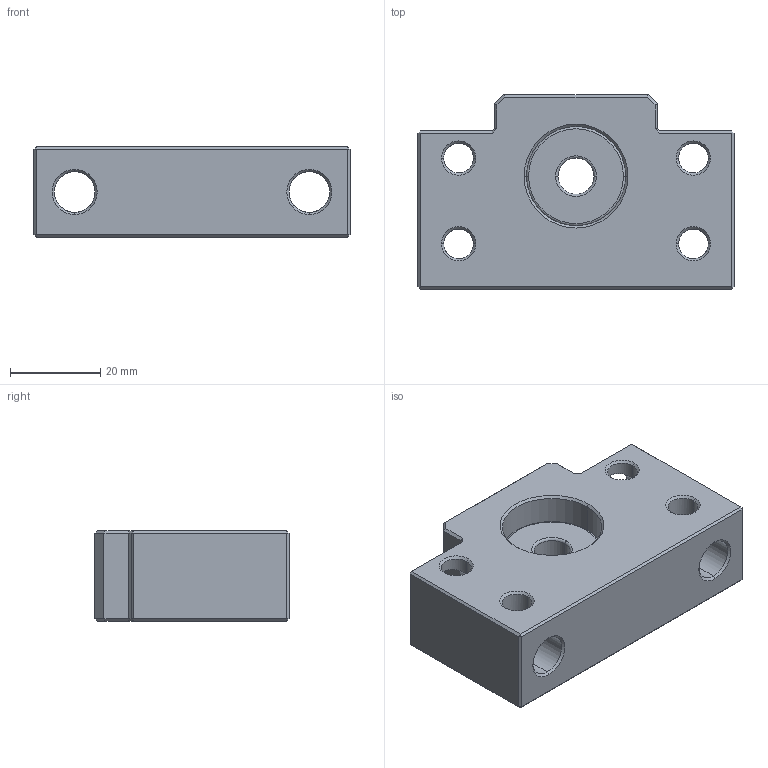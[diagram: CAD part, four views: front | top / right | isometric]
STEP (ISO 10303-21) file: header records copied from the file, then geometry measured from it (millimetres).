
FILE_DESCRIPTION (( 'STEP AP203' ), '1' );
FILE_NAME ('ASGF-10_203.STEP', '2013-02-26T00:35:08', ( '' ), ( '' ), 'SwSTEP 2.0', 'SolidWorks 2012', '' );
FILE_SCHEMA (( 'CONFIG_CONTROL_DESIGN' ));
Length unit declared in the file: millimetre
Products named in the file (1): ASGF-10_203
Bounding box: 70 x 43 x 20 mm (x, y, z)
Volume: 41582.8 mm3; surface area: 13022.6 mm2
Topology: 1 solids, 1 shells, 120 faces, 294 edges, 170 vertices
Faces by surface type: plane 54, cylinder 30, cone 28, torus 8
Entity records: 4045 total; most frequent: CARTESIAN_POINT 1129, DIRECTION 594, ORIENTED_EDGE 588, EDGE_CURVE 294, AXIS2_PLACEMENT_3D 211, LINE 172, VECTOR 172, VERTEX_POINT 170
